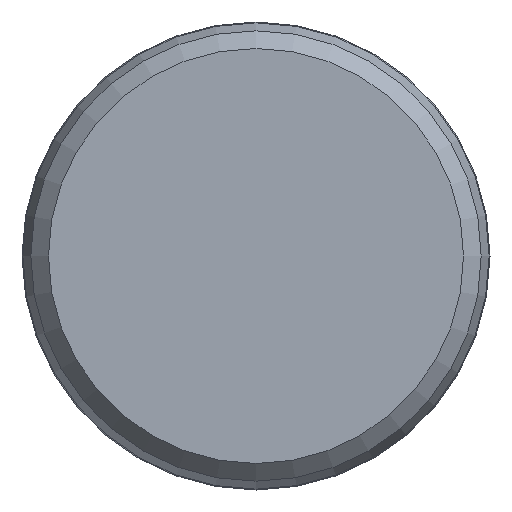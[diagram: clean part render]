
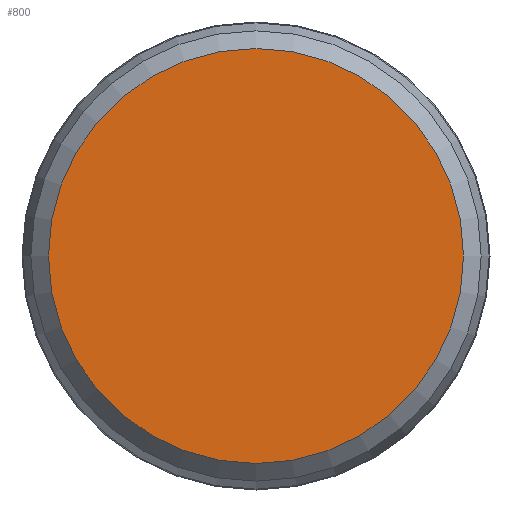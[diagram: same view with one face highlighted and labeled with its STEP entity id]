
A CAD part, left-side view. The second image highlights one B-rep face of the part: STEP entity #800.
In plain terms, the highlighted planar face has unit normal (-1, 0, 0).
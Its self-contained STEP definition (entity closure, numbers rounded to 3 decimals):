
#68=FACE_OUTER_BOUND('',#108,.T.);
#108=EDGE_LOOP('',(#560,#561));
#210=CIRCLE('',#873,3.525);
#211=CIRCLE('',#874,3.525);
#314=VERTEX_POINT('',#1420);
#315=VERTEX_POINT('',#1421);
#418=EDGE_CURVE('',#314,#315,#210,.T.);
#419=EDGE_CURVE('',#315,#314,#211,.T.);
#560=ORIENTED_EDGE('',*,*,#418,.F.);
#561=ORIENTED_EDGE('',*,*,#419,.F.);
#786=PLANE('',#872);
#800=ADVANCED_FACE('',(#68),#786,.T.);
#872=AXIS2_PLACEMENT_3D('',#1419,#1043,#1044);
#873=AXIS2_PLACEMENT_3D('',#1422,#1045,#1046);
#874=AXIS2_PLACEMENT_3D('',#1423,#1047,#1048);
#1043=DIRECTION('center_axis',(-1.,0.,0.));
#1044=DIRECTION('ref_axis',(0.,0.,1.));
#1045=DIRECTION('center_axis',(1.,0.,0.));
#1046=DIRECTION('ref_axis',(0.,0.,-1.));
#1047=DIRECTION('center_axis',(1.,0.,0.));
#1048=DIRECTION('ref_axis',(0.,0.,-1.));
#1419=CARTESIAN_POINT('Origin',(0.,3.525,0.));
#1420=CARTESIAN_POINT('',(0.,3.525,0.));
#1421=CARTESIAN_POINT('',(0.,-3.525,0.));
#1422=CARTESIAN_POINT('Origin',(0.,0.,0.));
#1423=CARTESIAN_POINT('Origin',(0.,0.,0.));
